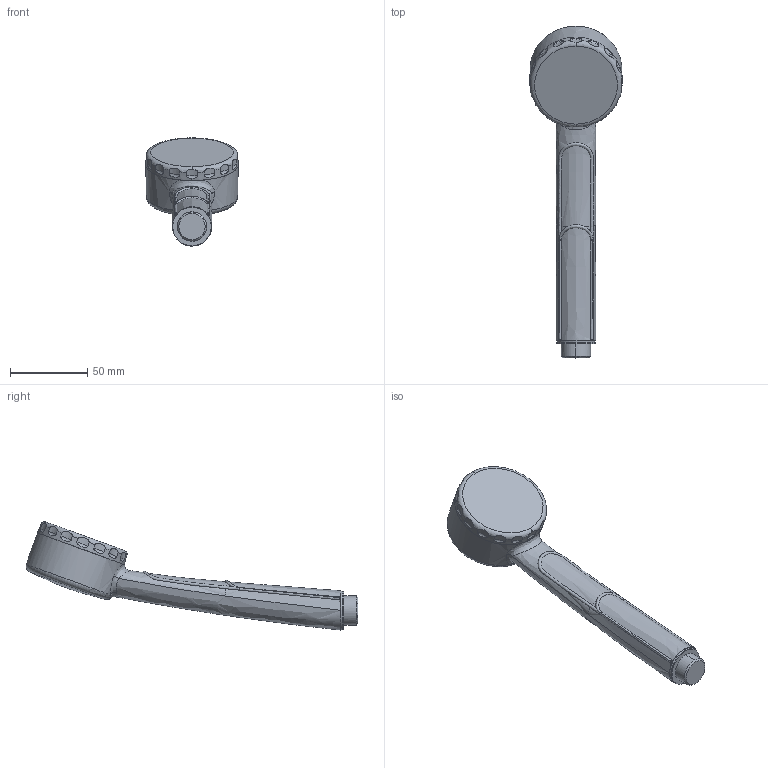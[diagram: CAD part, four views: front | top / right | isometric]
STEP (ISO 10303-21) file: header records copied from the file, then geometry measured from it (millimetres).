
FILE_DESCRIPTION (( 'STEP AP203' ), '1' );
FILE_NAME ('242068-11(2016).STEP', '2018-04-23T06:20:33', ( '' ), ( '' ), 'SwSTEP 2.0', 'SolidWorks 2016', '' );
FILE_SCHEMA (( 'CONFIG_CONTROL_DESIGN' ));
Length unit declared in the file: millimetre
Products named in the file (1): 242068-11(2016)
Bounding box: 60 x 215.3 x 70.16 mm (x, y, z)
Volume: 163303.3 mm3; surface area: 29075.1 mm2
Topology: 2 solids, 2 shells, 79 faces, 215 edges, 139 vertices
Faces by surface type: bspline 23, torus 22, cylinder 21, plane 7, cone 6
Entity records: 8242 total; most frequent: CARTESIAN_POINT 6497, ORIENTED_EDGE 426, DIRECTION 245, EDGE_CURVE 213, VERTEX_POINT 139, B_SPLINE_CURVE_WITH_KNOTS 138, AXIS2_PLACEMENT_3D 117, EDGE_LOOP 80
